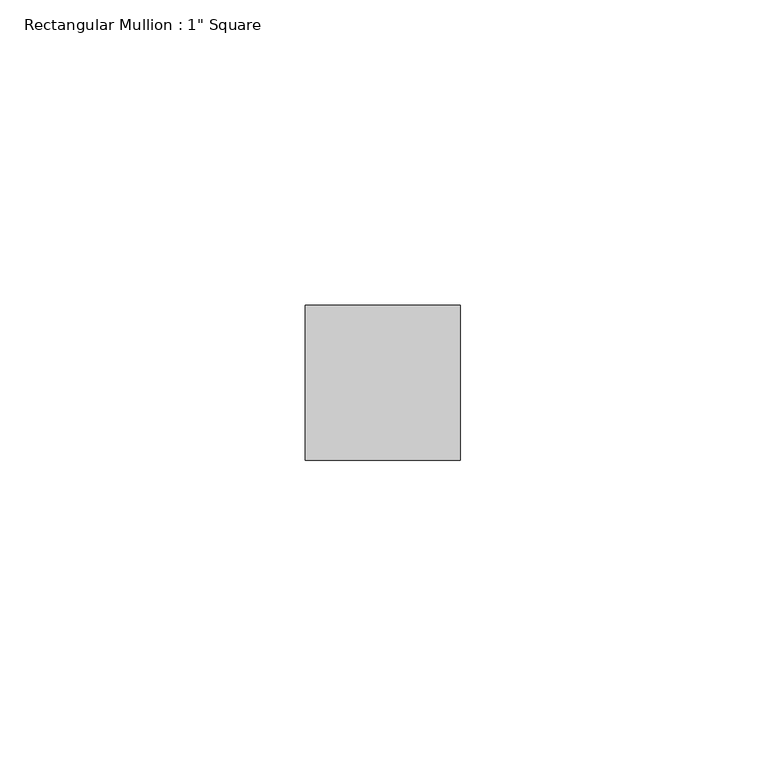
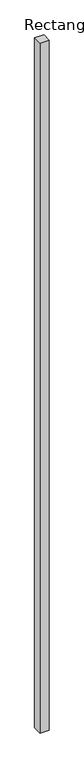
"""IFC4 building model written with IfcOpenShell, lengths in millimetres: member geometry."""

from ifc_helpers import new_model, si_unit, frame, origin, place, context, project, spatial, polyline, outline, extrude, source, transform, mapped, element, save


def member_ecfbb555(model_context):
    return source(origin(), model_context, "Body", "SweptSolid", [
        extrude(outline(polyline([(12.7, 12.7), (12.7, -12.7), (-12.7, -12.7), (-12.7, 12.7), (12.7, 12.7)])), frame((0.0, 0.0, -2010.956226), z_axis=(0.0, 0.0, 1.0), x_axis=(1.0, 0.0, 0.0)), (0.0, 0.0, 1.0), 2010.956226),
    ])


if __name__ == "__main__":
    model = new_model("IFC4")
    model_context = context("Model", 3, world=origin())
    ifc_project = project(units=[si_unit("LENGTHUNIT", "METRE", prefix="MILLI")], contexts=[model_context])
    site = spatial("IfcSite", under=ifc_project)
    building = spatial("IfcBuilding", under=site)
    placement = place(None, origin())
    member_shape = member_ecfbb555(model_context)
    element("IfcMember", 1, ObjectType="Rectangular Mullion : 1\" Square", at=placement, inside=building, context=model_context, shape_type="MappedRepresentation", body=[
        mapped(member_shape, transform((0.0, 0.0, 0.0), x_axis=(1.0, 0.0, 0.0), y_axis=(0.0, 1.0, 0.0), z_axis=(0.0, 0.0, 1.0))),
    ])
    save(model, "model.ifc")
